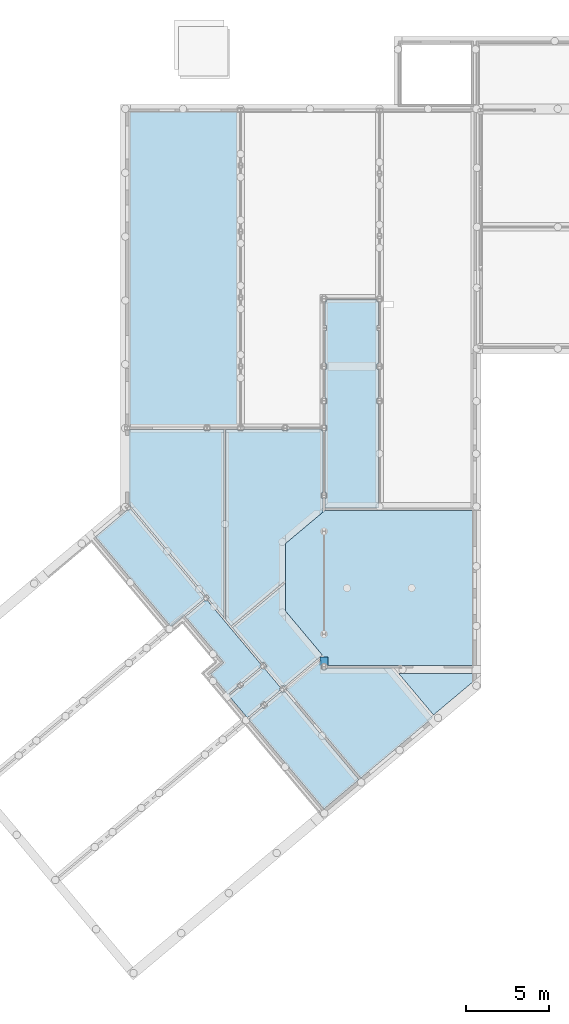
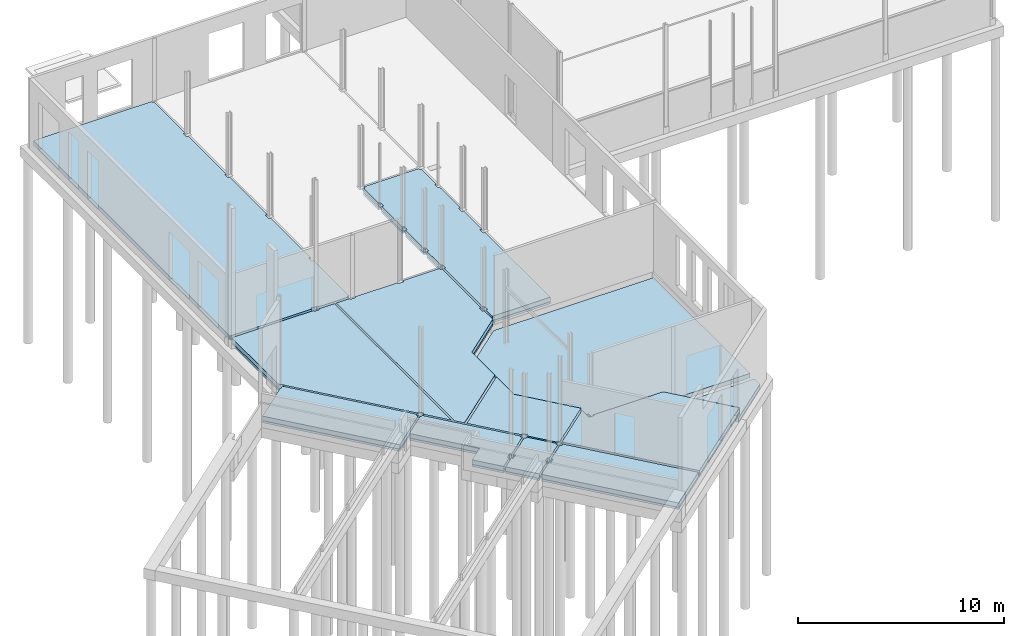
# One storey, part 14 of 18: 21 slabs, 1 beam.
"""IFC2X3 building model written with IfcOpenShell, lengths in millimetres."""

from ifc_helpers import new_model, entity, si_unit, converted_unit, derived_unit, direction, frame, origin, place, context, subcontext, project, spatial, polyline, outline, extrude, faceted_brep, material, layer, layer_set, layer_usage, type_object, element, save


model = new_model("IFC2X3")

# Units and contexts
model_context = context("Model", 3, precision=0.01, world=origin(), true_north=direction((6.12303176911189e-17, 1.0)))
body_context = subcontext(model_context, "Body", "Model", "MODEL_VIEW")
ifc_project = project(units=[si_unit("LENGTHUNIT", "METRE", prefix="MILLI"), si_unit("AREAUNIT", "SQUARE_METRE"), si_unit("VOLUMEUNIT", "CUBIC_METRE"), converted_unit("PLANEANGLEUNIT", "DEGREE", entity("IfcRatioMeasure", 0.0174532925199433), si_unit("PLANEANGLEUNIT", "RADIAN"), dimensions=[0, 0, 0, 0, 0, 0, 0]), si_unit("MASSUNIT", "GRAM", prefix="KILO"), derived_unit("MASSDENSITYUNIT", [(si_unit("MASSUNIT", "GRAM", prefix="KILO"), 1), (si_unit("LENGTHUNIT", "METRE"), -3)]), derived_unit("MOMENTOFINERTIAUNIT", [(si_unit("LENGTHUNIT", "METRE"), 4)]), si_unit("TIMEUNIT", "SECOND"), si_unit("FREQUENCYUNIT", "HERTZ"), si_unit("THERMODYNAMICTEMPERATUREUNIT", "DEGREE_CELSIUS"), derived_unit("THERMALTRANSMITTANCEUNIT", [(si_unit("MASSUNIT", "GRAM", prefix="KILO"), 1), (si_unit("THERMODYNAMICTEMPERATUREUNIT", "KELVIN"), -1), (si_unit("TIMEUNIT", "SECOND"), -3)]), derived_unit("VOLUMETRICFLOWRATEUNIT", [(si_unit("LENGTHUNIT", "METRE"), 3), (si_unit("TIMEUNIT", "SECOND"), -1)]), si_unit("ELECTRICCURRENTUNIT", "AMPERE"), si_unit("ELECTRICVOLTAGEUNIT", "VOLT"), si_unit("POWERUNIT", "WATT"), si_unit("FORCEUNIT", "NEWTON", prefix="KILO"), si_unit("ILLUMINANCEUNIT", "LUX"), si_unit("LUMINOUSFLUXUNIT", "LUMEN"), si_unit("LUMINOUSINTENSITYUNIT", "CANDELA"), derived_unit("USERDEFINED", [(si_unit("MASSUNIT", "GRAM", prefix="KILO"), -1), (si_unit("LENGTHUNIT", "METRE"), -2), (si_unit("TIMEUNIT", "SECOND"), 3), (si_unit("LUMINOUSFLUXUNIT", "LUMEN"), 1)]), derived_unit("LINEARVELOCITYUNIT", [(si_unit("LENGTHUNIT", "METRE"), 1), (si_unit("TIMEUNIT", "SECOND"), -1)]), si_unit("PRESSUREUNIT", "PASCAL"), derived_unit("USERDEFINED", [(si_unit("LENGTHUNIT", "METRE"), -2), (si_unit("MASSUNIT", "GRAM", prefix="KILO"), 1), (si_unit("TIMEUNIT", "SECOND"), -2)]), derived_unit("LINEARFORCEUNIT", [(si_unit("MASSUNIT", "GRAM", prefix="KILO"), 1), (si_unit("LENGTHUNIT", "METRE"), 1), (si_unit("TIMEUNIT", "SECOND"), -2), (si_unit("LENGTHUNIT", "METRE"), -1)]), derived_unit("PLANARFORCEUNIT", [(si_unit("MASSUNIT", "GRAM", prefix="KILO"), 1), (si_unit("LENGTHUNIT", "METRE"), 1), (si_unit("TIMEUNIT", "SECOND"), -2), (si_unit("LENGTHUNIT", "METRE"), -2)])], contexts=[model_context])

# Site, building, storey
site_placement = place(None, origin())
site = spatial("IfcSite", under=ifc_project, at=site_placement, Name="Default", CompositionType="ELEMENT")
building_placement = place(site_placement, origin())
building = spatial("IfcBuilding", under=site, at=building_placement, CompositionType="ELEMENT")
storey_placement = place(building_placement, frame((0.0, 0.0, -1085.0)))
storey = spatial("IfcBuildingStorey", under=building, at=storey_placement, Name="-00 fundatie", CompositionType="ELEMENT", Elevation=-1085.0)

# Beam
ifc_material_1 = material(Name="f2_beton ihwg")
beam_type = type_object("IfcBeamType", Name="BERSnl_28_SF_LIB_balk vierkant beton_gen_ISR:balk vierkant_gen_500X600", PredefinedType="JOIST")
beam_placement = place(storey_placement, frame((25365.4349765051, 1827.29662827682, 0.0), z_axis=(0.0, 0.0, 1.0), x_axis=(0.0, 1.0, 0.0)))
element("IfcBeam", 1, at=beam_placement, inside=storey, type_object=beam_type, material=ifc_material_1, Name="BERSnl_28_SF_LIB_balk vierkant beton_gen_ISR:balk vierkant_gen_500X600", ObjectType="BERSnl_28_SF_LIB_balk vierkant beton_gen_ISR:balk vierkant_gen_500X600", context=body_context, shape_type="Brep", body=[
    faceted_brep([(520.0, 0.0, 0.0), (520.0, 0.0, 600.0), (520.0, -240.366749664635, 600.0), (520.0, -500.0, 600.0), (520.0, -500.0, 250.0), (520.0, -240.366749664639, 250.0), (520.0, -100.0, 250.0), (520.0, -100.0, 0.0), (184.168406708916, 0.0, 600.0), (118.526921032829, 0.0, 600.0), (0.0, 0.0, 600.0), (0.0, -355.0, 600.0), (0.0, -400.0, 600.0), (0.0, -500.0, 600.0), (184.168406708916, 0.0, 0.0), (118.526921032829, 0.0, 0.0), (0.0, 0.0, 0.0), (75.0, -100.0, 0.0), (75.0, -400.0, 0.0), (0.0, -400.0, 0.0), (0.0, -500.0, 250.0), (0.0, -400.0, 250.0), (75.0, -400.0, 250.0), (75.0, -100.0, 250.0)], [[[0, 1, 2, 3, 4, 5, 6, 7]], [[3, 2, 1, 8, 9, 10, 11, 12, 13]], [[1, 0, 14, 15, 16, 10, 9, 8]], [[0, 7, 17, 18, 19, 16, 15, 14]], [[4, 3, 13, 20]], [[4, 20, 21, 22, 23, 6, 5]], [[13, 12, 11, 10, 16, 19, 21, 20]], [[22, 21, 19, 18]], [[23, 22, 18, 17]], [[23, 17, 7, 6]]]),
])

# Slabs
ifc_material_2 = material(Name="f2_beton prefab")
ifc_layer_1 = layer(ifc_material_2, 265.0)
ifc_layer_set_1 = layer_set([ifc_layer_1], Name="Floor:BERSnl_23_FL_kanaalplaatvloer 265")
ifc_layer_usage_1 = layer_usage(ifc_layer_set_1, "AXIS3", "POSITIVE", 0.0)
slab_type_1 = type_object("IfcSlabType", Name="Floor:BERSnl_23_FL_kanaalplaatvloer 265", PredefinedType="FLOOR", material=ifc_layer_set_1)
slab_1_placement = place(storey_placement, origin())
element("IfcSlab", 2, at=slab_1_placement, inside=storey, type_object=slab_type_1, material=ifc_layer_usage_1, Name="Floor:BERSnl_23_FL_kanaalplaatvloer 265", ObjectType="Floor:BERSnl_23_FL_kanaalplaatvloer 265", PredefinedType="FLOOR", context=body_context, shape_type="SweptSolid", body=[
    extrude(outline(polyline([(-7696.44925605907, -5514.44251383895), (11317.5507439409, -5514.44251383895), (11317.5507439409, 1095.55748616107), (11237.2029904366, 1095.55748616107), (11237.2029904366, 1195.55748616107), (8188.55074394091, 1195.55748616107), (8188.55074394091, 1095.55748616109), (7888.55074394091, 1095.55748616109), (7888.55074394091, 1195.55748616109), (4188.55074394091, 1195.55748616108), (4188.55074394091, 1095.55748616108), (3888.55074394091, 1095.55748616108), (3888.55074394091, 1195.55748616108), (218.550743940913, 1195.55748616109), (218.550743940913, 1095.55748616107), (-81.4492560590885, 1095.55748616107), (-81.4492560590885, 1195.55748616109), (-3956.90595886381, 1195.55748616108), (-3956.90595886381, 1095.55748616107), (-4256.90595886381, 1095.55748616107), (-4256.90595886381, 1195.55748616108), (-7696.44925605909, 1195.55748616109), (-7696.44925605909, 1095.55748616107), (-7771.44925605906, 1095.55748616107), (-7771.44925605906, -634.123660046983), (-7696.44925605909, -634.123660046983), (-7696.44925605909, -934.123660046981), (-7771.44925605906, -934.123660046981), (-7771.44925605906, -5468.44251383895), (-7696.44925605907, -5468.44251383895), (-7696.44925605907, -5514.44251383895)])), frame((19323.877490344, 24028.7458843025, 995.0), z_axis=(0.0, 0.0, -1.0), x_axis=(0.0, 1.0, 0.0)), (0.0, 0.0, 1.0), 265.0),
])
ifc_layer_usage_2 = layer_usage(ifc_layer_set_1, "AXIS3", "POSITIVE", 0.0)
slab_type_2 = type_object("IfcSlabType", Name="Floor:BERSnl_23_FL_kanaalplaatvloer 265", PredefinedType="FLOOR", material=ifc_layer_set_1)
slab_2_placement = place(storey_placement, origin())
element("IfcSlab", 3, at=slab_2_placement, inside=storey, type_object=slab_type_2, material=ifc_layer_usage_2, Name="Floor:BERSnl_23_FL_kanaalplaatvloer 265", ObjectType="Floor:BERSnl_23_FL_kanaalplaatvloer 265", PredefinedType="FLOOR", context=body_context, shape_type="SweptSolid", body=[
    extrude(outline(polyline([(-7635.93118364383, -1311.60000000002), (-7014.16569026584, -1311.60000000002), (-7014.16569026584, -1211.60000000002), (-6714.16569026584, -1211.60000000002), (-6714.16569026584, -1311.60000000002), (-2945.93118364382, -1311.6), (-2945.93118364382, -1211.60000000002), (-2645.93118364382, -1211.60000000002), (-2645.93118364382, -1311.60000000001), (-1294.65801211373, -1311.60000000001), (-1294.65801211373, -1211.60000000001), (-994.65801211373, -1211.60000000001), (-994.65801211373, -1311.60000000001), (794.068816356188, -1311.60000000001), (794.068816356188, -1211.6), (1094.06881635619, -1211.6), (1094.06881635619, -1311.60000000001), (3109.0688163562, -1311.60000000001), (3109.0688163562, -1211.60000000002), (3409.0688163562, -1211.60000000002), (3409.0688163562, -1311.60000000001), (4874.06881635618, -1311.60000000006), (4874.06881635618, -1211.60000000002), (4974.06881635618, -1211.60000000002), (4974.06881635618, 1842.39999999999), (4874.06881635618, 1842.39999999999), (4874.06881635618, 1942.39999999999), (3409.0688163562, 1942.39999999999), (3409.0688163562, 1842.40000000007), (3109.06881635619, 1842.40000000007), (3109.06881635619, 1942.39999999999), (1094.06881635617, 1942.40000000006), (1094.06881635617, 1842.39999999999), (794.068816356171, 1842.39999999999), (794.068816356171, 1942.40000000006), (-994.658012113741, 1942.4), (-994.658012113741, 1842.39999999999), (-1294.65801211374, 1842.39999999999), (-1294.65801211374, 1942.4), (-7635.93118364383, 1942.40000000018), (-7635.93118364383, -1311.60000000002)])), frame((26977.0349765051, 18978.2278118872, 995.0), z_axis=(0.0, 0.0, -1.0), x_axis=(0.0, 1.0, 0.0)), (0.0, 0.0, 1.0), 265.0),
])
ifc_material_3 = material(Name="00_Isolatie_generiek")
ifc_layer_2 = layer(ifc_material_3, 130.0)
ifc_layer_set_2 = layer_set([ifc_layer_2], Name="Floor:NLRS_23_FL_isolatie 130")
ifc_layer_usage_3 = layer_usage(ifc_layer_set_2, "AXIS3", "POSITIVE", 0.0)
slab_type_3 = type_object("IfcSlabType", Name="Floor:NLRS_23_FL_isolatie 130", PredefinedType="FLOOR", material=ifc_layer_set_2)
slab_3_placement = place(storey_placement, origin())
element("IfcSlab", 4, at=slab_3_placement, inside=storey, type_object=slab_type_3, material=ifc_layer_usage_3, Name="Floor:NLRS_23_FL_isolatie 130", ObjectType="Floor:NLRS_23_FL_isolatie 130", PredefinedType="FLOOR", context=body_context, shape_type="SweptSolid", body=[
    extrude(outline(polyline([(-7635.93118364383, -1311.60000000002), (-7014.16569026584, -1311.60000000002), (-7014.16569026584, -1211.60000000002), (-6714.16569026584, -1211.60000000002), (-6714.16569026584, -1311.60000000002), (-2945.93118364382, -1311.6), (-2945.93118364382, -1211.60000000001), (-2645.93118364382, -1211.60000000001), (-2645.93118364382, -1311.6), (-1294.65801211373, -1311.60000000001), (-1294.65801211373, -1211.60000000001), (-994.65801211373, -1211.60000000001), (-994.65801211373, -1311.60000000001), (794.068816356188, -1311.6), (794.068816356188, -1211.6), (1094.06881635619, -1211.6), (1094.06881635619, -1311.6), (3109.0688163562, -1311.60000000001), (3109.0688163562, -1211.60000000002), (3409.0688163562, -1211.60000000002), (3409.0688163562, -1311.60000000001), (4874.06881635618, -1311.60000000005), (4874.06881635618, -1211.60000000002), (4974.06881635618, -1211.60000000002), (4974.06881635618, 1842.4), (4874.06881635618, 1842.4), (4874.06881635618, 1942.39999999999), (3409.0688163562, 1942.39999999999), (3409.0688163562, 1842.40000000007), (3109.06881635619, 1842.40000000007), (3109.06881635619, 1942.39999999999), (1094.06881635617, 1942.40000000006), (1094.06881635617, 1842.39999999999), (794.068816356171, 1842.39999999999), (794.068816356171, 1942.40000000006), (-994.658012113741, 1942.4), (-994.658012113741, 1842.39999999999), (-1294.65801211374, 1842.39999999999), (-1294.65801211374, 1942.4), (-7635.93118364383, 1942.40000000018), (-7635.93118364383, -1311.60000000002)])), frame((26977.0349765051, 18978.2278118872, 730.0), z_axis=(0.0, 0.0, -1.0), x_axis=(0.0, 1.0, 0.0)), (0.0, 0.0, 1.0), 130.0),
])
ifc_layer_3 = layer(ifc_material_1, 250.0)
ifc_layer_set_3 = layer_set([ifc_layer_3], Name="Floor:BERSnl_23_FL_gewapend beton 250_gen_ISR")
ifc_layer_usage_4 = layer_usage(ifc_layer_set_3, "AXIS3", "POSITIVE", 0.0)
slab_type_4 = type_object("IfcSlabType", Name="Floor:BERSnl_23_FL_gewapend beton 250_gen_ISR", PredefinedType="FLOOR", material=ifc_layer_set_3)
slab_4_placement = place(storey_placement, origin())
element("IfcSlab", 5, at=slab_4_placement, inside=storey, type_object=slab_type_4, material=ifc_layer_usage_4, Name="Floor:BERSnl_23_FL_gewapend beton 250_gen_ISR", ObjectType="Floor:BERSnl_23_FL_gewapend beton 250_gen_ISR", PredefinedType="FLOOR", context=body_context, shape_type="SweptSolid", body=[
    extrude(outline(polyline([(-78.2421030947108, -3814.29762799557), (4023.33311651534, -3814.29762799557), (6005.86919223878, -1451.60313730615), (6005.8691922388, 7518.6944526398), (-3359.13080772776, 7518.69445263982), (-3359.13080772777, -1339.29762799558), (-3284.13080772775, -1339.29762799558), (-3284.13080772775, -1639.29762799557), (-2670.30616698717, -1639.29762799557), (-78.2421030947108, -3814.29762799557)])), frame((27104.7326045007, 5186.42743600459, 250.0), z_axis=(0.0, 0.0, -1.0), x_axis=(0.0, 1.0, 0.0)), (0.0, 0.0, 1.0), 250.0),
])
ifc_layer_usage_5 = layer_usage(ifc_layer_set_3, "AXIS3", "POSITIVE", 0.0)
slab_type_5 = type_object("IfcSlabType", Name="Floor:BERSnl_23_FL_gewapend beton 250_gen_ISR", PredefinedType="FLOOR", material=ifc_layer_set_3)
slab_5_placement = place(storey_placement, origin())
element("IfcSlab", 6, at=slab_5_placement, inside=storey, type_object=slab_type_5, material=ifc_layer_usage_5, Name="Floor:BERSnl_23_FL_gewapend beton 250_gen_ISR", ObjectType="Floor:BERSnl_23_FL_gewapend beton 250_gen_ISR", PredefinedType="FLOOR", context=body_context, shape_type="SweptSolid", body=[
    extrude(outline(polyline([(-754.062474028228, -1696.44635958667), (-230.633582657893, -1696.44635958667), (1738.75853071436, 650.583766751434), (-754.062474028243, 2742.30895242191), (-754.062474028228, -1696.44635958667)])), frame((32886.9806975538, 573.234154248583, 250.0), z_axis=(0.0, 0.0, -1.0), x_axis=(0.0, -1.0, 0.0)), (0.0, 0.0, 1.0), 250.0),
])
ifc_layer_usage_6 = layer_usage(ifc_layer_set_1, "AXIS3", "POSITIVE", 0.0)
slab_type_6 = type_object("IfcSlabType", Name="Floor:BERSnl_23_FL_kanaalplaatvloer 265", PredefinedType="FLOOR", material=ifc_layer_set_1)
slab_6_placement = place(storey_placement, origin())
element("IfcSlab", 7, at=slab_6_placement, inside=storey, type_object=slab_type_6, material=ifc_layer_usage_6, Name="Floor:BERSnl_23_FL_kanaalplaatvloer 265", ObjectType="Floor:BERSnl_23_FL_kanaalplaatvloer 265", PredefinedType="FLOOR", context=body_context, shape_type="SweptSolid", body=[
    extrude(outline(polyline([(-1162.68929126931, -1304.33278101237), (2727.79663337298, -1304.33278101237), (5258.08201208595, 1711.14390935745), (914.212974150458, 5356.08281697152), (-3649.33445453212, -82.5412261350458), (-1462.68929126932, -1917.35437614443), (-1462.68929126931, -1229.33278101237), (-1162.68929126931, -1229.33278101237), (-1162.68929126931, -1304.33278101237)])), frame((26928.1242677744, 372.963847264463, 995.0), z_axis=(0.0, 0.0, -1.0), x_axis=(1.0, 0.0, 0.0)), (0.0, 0.0, 1.0), 265.0),
])
ifc_layer_usage_7 = layer_usage(ifc_layer_set_2, "AXIS3", "POSITIVE", 0.0)
slab_type_7 = type_object("IfcSlabType", Name="Floor:NLRS_23_FL_isolatie 130", PredefinedType="FLOOR", material=ifc_layer_set_2)
slab_7_placement = place(storey_placement, origin())
element("IfcSlab", 8, at=slab_7_placement, inside=storey, type_object=slab_type_7, material=ifc_layer_usage_7, Name="Floor:NLRS_23_FL_isolatie 130", ObjectType="Floor:NLRS_23_FL_isolatie 130", PredefinedType="FLOOR", context=body_context, shape_type="SweptSolid", body=[
    extrude(outline(polyline([(729.21699880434, -2938.51114888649), (4665.64225122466, -2938.51114888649), (4665.64225122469, 2732.00715713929), (-2333.9772185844, 2732.00715713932), (-2333.9772185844, -38.545415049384), (-1906.92209888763, 319.79637838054), (-1714.08581598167, 89.9830454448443), (-1771.53914921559, 41.7739747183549), (729.21699880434, -2938.51114888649)])), frame((26936.1591128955, 347.070700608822, 730.0), z_axis=(0.0, 0.0, -1.0), x_axis=(0.642787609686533, -0.766044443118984, 0.0)), (0.0, 0.0, 1.0), 130.0),
])
ifc_layer_usage_8 = layer_usage(ifc_layer_set_1, "AXIS3", "POSITIVE", 0.0)
slab_type_8 = type_object("IfcSlabType", Name="Floor:BERSnl_23_FL_kanaalplaatvloer 265", PredefinedType="FLOOR", material=ifc_layer_set_1)
slab_8_placement = place(storey_placement, origin())
element("IfcSlab", 9, at=slab_8_placement, inside=storey, type_object=slab_type_8, material=ifc_layer_usage_8, Name="Floor:BERSnl_23_FL_kanaalplaatvloer 265", ObjectType="Floor:BERSnl_23_FL_kanaalplaatvloer 265", PredefinedType="FLOOR", context=body_context, shape_type="SweptSolid", body=[
    extrude(outline(polyline([(-1360.0, -1182.31222790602), (5640.0, -1182.31222790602), (5640.0, 1582.30724190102), (-1460.0, 1582.30724190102), (-1460.0, 466.158606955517), (-1360.0, 466.158606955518), (-1360.0, 166.158606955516), (-1460.0, 166.158606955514), (-1460.0, -1032.31222790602), (-1360.0, -1032.31222790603), (-1360.0, -1182.31222790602)])), frame((23196.113241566, -1519.26670294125, 995.0), z_axis=(0.0, 0.0, -1.0), x_axis=(0.642787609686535, -0.766044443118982, 0.0)), (0.0, 0.0, 1.0), 265.0),
])
ifc_layer_usage_9 = layer_usage(ifc_layer_set_2, "AXIS3", "POSITIVE", 0.0)
slab_type_9 = type_object("IfcSlabType", Name="Floor:NLRS_23_FL_isolatie 130", PredefinedType="FLOOR", material=ifc_layer_set_2)
slab_9_placement = place(storey_placement, origin())
element("IfcSlab", 10, at=slab_9_placement, inside=storey, type_object=slab_type_9, material=ifc_layer_usage_9, Name="Floor:NLRS_23_FL_isolatie 130", ObjectType="Floor:NLRS_23_FL_isolatie 130", PredefinedType="FLOOR", context=body_context, shape_type="SweptSolid", body=[
    extrude(outline(polyline([(-1360.0, -1182.31222790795), (5640.0, -1182.31222790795), (5640.0, 1582.30724190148), (-1460.0, 1582.3072419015), (-1460.0, 466.158606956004), (-1360.0, 466.158606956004), (-1360.0, 166.158606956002), (-1460.0, 166.158606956), (-1460.0, -1032.31222790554), (-1360.0, -1032.31222790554), (-1360.0, -1182.31222790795)])), frame((23196.1132415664, -1519.26670294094, 730.0), z_axis=(0.0, 0.0, -1.0), x_axis=(0.642787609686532, -0.766044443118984, 0.0)), (0.0, 0.0, 1.0), 130.0),
])
ifc_layer_usage_10 = layer_usage(ifc_layer_set_1, "AXIS3", "POSITIVE", 0.0)
slab_type_10 = type_object("IfcSlabType", Name="Floor:BERSnl_23_FL_kanaalplaatvloer 265", PredefinedType="FLOOR", material=ifc_layer_set_1)
slab_10_placement = place(storey_placement, origin())
element("IfcSlab", 11, at=slab_10_placement, inside=storey, type_object=slab_type_10, material=ifc_layer_usage_10, Name="Floor:BERSnl_23_FL_kanaalplaatvloer 265", ObjectType="Floor:BERSnl_23_FL_kanaalplaatvloer 265", PredefinedType="FLOOR", context=body_context, shape_type="SweptSolid", body=[
    extrude(outline(polyline([(-769.086600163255, -1168.8024436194), (768.896335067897, -1168.8024436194), (768.8963350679, -1068.80244362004), (868.896335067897, -1068.80244362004), (868.896335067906, 129.668391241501), (768.896335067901, 129.668391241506), (768.896335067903, 429.668391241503), (868.896335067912, 429.668391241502), (868.896335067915, 1545.81702618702), (-868.706069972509, 1545.81702618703), (-868.706069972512, 750.62676109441), (-769.086600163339, 750.62676109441), (-769.086600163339, 450.626761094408), (-868.706069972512, 450.626761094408), (-868.706069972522, -1068.8024436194), (-769.086600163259, -1068.8024436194), (-769.086600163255, -1168.8024436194)])), frame((21606.8956451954, 317.920378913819, 995.0), z_axis=(0.0, 0.0, -1.0), x_axis=(0.642787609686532, -0.766044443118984, 0.0)), (0.0, 0.0, 1.0), 265.0),
])
ifc_layer_usage_11 = layer_usage(ifc_layer_set_1, "AXIS3", "POSITIVE", 0.0)
slab_type_11 = type_object("IfcSlabType", Name="Floor:BERSnl_23_FL_kanaalplaatvloer 265", PredefinedType="FLOOR", material=ifc_layer_set_1)
slab_11_placement = place(storey_placement, origin())
element("IfcSlab", 12, at=slab_11_placement, inside=storey, type_object=slab_type_11, material=ifc_layer_usage_11, Name="Floor:BERSnl_23_FL_kanaalplaatvloer 265", ObjectType="Floor:BERSnl_23_FL_kanaalplaatvloer 265", PredefinedType="FLOOR", context=body_context, shape_type="SweptSolid", body=[
    extrude(outline(polyline([(-1605.92954919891, -2117.40815568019), (1848.80259372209, -2117.40815568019), (1848.8025937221, 881.58709106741), (1749.18312391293, 881.587091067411), (1749.18312391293, 981.587091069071), (211.200188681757, 981.587091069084), (211.200188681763, 881.587091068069), (-88.7998113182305, 881.587091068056), (-88.7998113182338, 981.587091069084), (-2917.42132039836, 981.587091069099), (-2917.42132039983, -3217.88041718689), (-1605.92954919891, -2117.40815568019)])), frame((22700.6778412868, 2515.38613603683, 995.0), z_axis=(0.0, 0.0, -1.0), x_axis=(0.642787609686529, -0.766044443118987, 0.0)), (0.0, 0.0, 1.0), 265.0),
])
ifc_layer_usage_12 = layer_usage(ifc_layer_set_2, "AXIS3", "POSITIVE", 0.0)
slab_type_12 = type_object("IfcSlabType", Name="Floor:NLRS_23_FL_isolatie 130", PredefinedType="FLOOR", material=ifc_layer_set_2)
slab_12_placement = place(storey_placement, origin())
element("IfcSlab", 13, at=slab_12_placement, inside=storey, type_object=slab_type_12, material=ifc_layer_usage_12, Name="Floor:NLRS_23_FL_isolatie 130", ObjectType="Floor:NLRS_23_FL_isolatie 130", PredefinedType="FLOOR", context=body_context, shape_type="SweptSolid", body=[
    extrude(outline(polyline([(-1605.92954919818, -2117.40815567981), (1848.80259372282, -2117.40815567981), (1848.8025937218, 881.587091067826), (1749.18312391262, 881.58709106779), (1749.18312391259, 981.587091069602), (211.200188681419, 981.587091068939), (211.200188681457, 881.587091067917), (-88.7998113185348, 881.587091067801), (-88.7998113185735, 981.587091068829), (-2917.4213203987, 981.58709106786), (-2917.4213203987, -3217.88041718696), (-1605.92954919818, -2117.40815567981)])), frame((22700.6778412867, 2515.38613603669, 730.0), z_axis=(0.0, 0.0, -1.0), x_axis=(0.642787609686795, -0.766044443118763, 0.0)), (0.0, 0.0, 1.0), 130.0),
])
ifc_layer_usage_13 = layer_usage(ifc_layer_set_1, "AXIS3", "POSITIVE", 0.0)
slab_type_13 = type_object("IfcSlabType", Name="Floor:BERSnl_23_FL_kanaalplaatvloer 265", PredefinedType="FLOOR", material=ifc_layer_set_1)
slab_13_placement = place(storey_placement, origin())
element("IfcSlab", 14, at=slab_13_placement, inside=storey, type_object=slab_type_13, material=ifc_layer_usage_13, Name="Floor:BERSnl_23_FL_kanaalplaatvloer 265", ObjectType="Floor:BERSnl_23_FL_kanaalplaatvloer 265", PredefinedType="FLOOR", context=body_context, shape_type="SweptSolid", body=[
    extrude(outline(polyline([(-8611.78380933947, -3443.41134509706), (2894.58001749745, -3443.41134509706), (2894.58001749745, -2693.79857525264), (2819.58001749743, -2693.79857525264), (2819.58001749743, -2393.79857525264), (2894.58001749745, -2393.79857525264), (2894.58001749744, 2.20142474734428), (2819.58001749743, 2.2014247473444), (2819.58001749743, 302.201424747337), (2919.58001749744, 302.201424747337), (2919.58001749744, 2352.20142474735), (2819.58001749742, 2352.20142474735), (2819.58001749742, 2452.20142474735), (-948.654489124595, 2452.20142474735), (-948.654489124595, 2352.20142474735), (-1248.65448912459, 2352.20142474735), (-1248.65448912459, 2452.20142474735), (-2094.00439729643, 2452.20142474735), (-4002.95605822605, 177.201424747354), (-6232.96096449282, 177.201424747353), (-8998.637024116, -3118.80295525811), (-8611.78380933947, -3443.41134509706)])), frame((23113.2335517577, 13212.716610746, 995.0), z_axis=(0.0, 0.0, -1.0), x_axis=(0.0, 1.0, 0.0)), (0.0, 0.0, 1.0), 265.0),
])
ifc_layer_usage_14 = layer_usage(ifc_layer_set_2, "AXIS3", "POSITIVE", 0.0)
slab_type_14 = type_object("IfcSlabType", Name="Floor:NLRS_23_FL_isolatie 130", PredefinedType="FLOOR", material=ifc_layer_set_2)
slab_14_placement = place(storey_placement, origin())
element("IfcSlab", 15, at=slab_14_placement, inside=storey, type_object=slab_type_14, material=ifc_layer_usage_14, Name="Floor:NLRS_23_FL_isolatie 130", ObjectType="Floor:NLRS_23_FL_isolatie 130", PredefinedType="FLOOR", context=body_context, shape_type="SweptSolid", body=[
    extrude(outline(polyline([(-8612.33597113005, -3443.39746400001), (2894.61985559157, -3443.39746400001), (2894.61985559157, -2693.78469415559), (2819.61985559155, -2693.78469415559), (2819.61985559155, -2393.78469415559), (2894.61985559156, -2393.78469415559), (2894.61985559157, 2.21530584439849), (2819.61985559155, 2.2153058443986), (2819.61985559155, 302.2153058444), (2919.61985559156, 302.2153058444), (2919.61985559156, 2352.21530584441), (2819.61985559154, 2352.21530584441), (2819.61985559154, 2452.2153058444), (-948.614651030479, 2452.2153058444), (-948.614651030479, 2352.2153058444), (-1248.61465103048, 2352.2153058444), (-1248.61465103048, 2452.21530584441), (-2093.96455920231, 2452.2153058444), (-4002.91622013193, 177.215305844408), (-6232.9211263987, 177.215305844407), (-8998.84178611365, -3119.08057719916), (-8612.33597113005, -3443.39746400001)])), frame((23113.2196706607, 13212.6767726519, 730.0), z_axis=(0.0, 0.0, -1.0), x_axis=(0.0, 1.0, 0.0)), (0.0, 0.0, 1.0), 130.0),
])
ifc_layer_usage_15 = layer_usage(ifc_layer_set_1, "AXIS3", "POSITIVE", 0.0)
slab_type_15 = type_object("IfcSlabType", Name="Floor:BERSnl_23_FL_kanaalplaatvloer 265", PredefinedType="FLOOR", material=ifc_layer_set_1)
slab_15_placement = place(storey_placement, origin())
element("IfcSlab", 16, at=slab_15_placement, inside=storey, type_object=slab_type_15, material=ifc_layer_usage_15, Name="Floor:BERSnl_23_FL_kanaalplaatvloer 265", ObjectType="Floor:BERSnl_23_FL_kanaalplaatvloer 265", PredefinedType="FLOOR", context=body_context, shape_type="SweptSolid", body=[
    extrude(outline(polyline([(-3449.06411275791, -1153.7773237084), (1657.95295201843, -1153.7773237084), (1657.95295201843, -1059.95009258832), (1757.95295201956, -1059.95009258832), (1757.95295201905, 459.47911212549), (1657.95295201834, 459.47911212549), (1657.95295201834, 759.479112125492), (1757.95295201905, 759.479112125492), (1757.95295201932, 1554.66937721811), (121.316417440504, 1554.66937721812), (121.316417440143, 500.049907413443), (-3504.06411275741, 500.049907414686), (-3504.06411275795, -1059.95009258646), (-3449.06411275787, -1059.95009258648), (-3449.06411275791, -1153.7773237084)])), frame((19860.7697042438, 2412.64405558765, 995.0), z_axis=(0.0, 0.0, -1.0), x_axis=(0.642787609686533, -0.766044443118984, 0.0)), (0.0, 0.0, 1.0), 265.0),
])
ifc_layer_usage_16 = layer_usage(ifc_layer_set_2, "AXIS3", "POSITIVE", 0.0)
slab_type_16 = type_object("IfcSlabType", Name="Floor:NLRS_23_FL_isolatie 130", PredefinedType="FLOOR", material=ifc_layer_set_2)
slab_16_placement = place(storey_placement, origin())
element("IfcSlab", 17, at=slab_16_placement, inside=storey, type_object=slab_type_16, material=ifc_layer_usage_16, Name="Floor:NLRS_23_FL_isolatie 130", ObjectType="Floor:NLRS_23_FL_isolatie 130", PredefinedType="FLOOR", context=body_context, shape_type="SweptSolid", body=[
    extrude(outline(polyline([(-3410.48023302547, -1153.7773237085), (1651.51976698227, -1153.7773237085), (1651.51976698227, -1059.95009258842), (1751.51976698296, -1059.95009258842), (1751.51976698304, 459.479112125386), (1651.51976698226, 459.479112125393), (1651.51976698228, 759.479112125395), (1751.51976698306, 759.47911212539), (1751.5197669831, 1554.66937721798), (114.883232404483, 1554.66937721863), (114.883232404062, 500.049907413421), (-3510.48206730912, 500.04990741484), (-3510.48206730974, -1059.95009258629), (-3410.48023302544, -1059.95009258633), (-3410.48023302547, -1153.7773237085)])), frame((19864.9048758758, 2407.71594993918, 730.0), z_axis=(0.0, 0.0, -1.0), x_axis=(0.642787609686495, -0.766044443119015, 0.0)), (0.0, 0.0, 1.0), 130.0),
])
ifc_layer_usage_17 = layer_usage(ifc_layer_set_1, "AXIS3", "POSITIVE", 0.0)
slab_type_17 = type_object("IfcSlabType", Name="Floor:BERSnl_23_FL_kanaalplaatvloer 265", PredefinedType="FLOOR", material=ifc_layer_set_1)
slab_17_placement = place(storey_placement, origin())
element("IfcSlab", 18, at=slab_17_placement, inside=storey, type_object=slab_type_17, material=ifc_layer_usage_17, Name="Floor:BERSnl_23_FL_kanaalplaatvloer 265", ObjectType="Floor:BERSnl_23_FL_kanaalplaatvloer 265", PredefinedType="FLOOR", context=body_context, shape_type="SweptSolid", body=[
    extrude(outline(polyline([(-3492.10745280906, -754.912889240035), (3462.09721567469, -754.912889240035), (3462.09721567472, -656.295215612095), (3563.09120094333, -654.532359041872), (3563.09120094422, 1960.08711075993), (-3533.08096380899, 1960.08711076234), (-3533.08096380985, -549.607979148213), (-3492.10745280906, -549.912889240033), (-3492.10745280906, -754.912889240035)])), frame((15565.0289642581, 8162.8265432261, 995.0), z_axis=(0.0, 0.0, -1.0), x_axis=(0.642787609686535, -0.766044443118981, 0.0)), (0.0, 0.0, 1.0), 265.0),
])
ifc_layer_usage_18 = layer_usage(ifc_layer_set_2, "AXIS3", "POSITIVE", 0.0)
slab_type_18 = type_object("IfcSlabType", Name="Floor:NLRS_23_FL_isolatie 130", PredefinedType="FLOOR", material=ifc_layer_set_2)
slab_18_placement = place(storey_placement, origin())
element("IfcSlab", 19, at=slab_18_placement, inside=storey, type_object=slab_type_18, material=ifc_layer_usage_18, Name="Floor:NLRS_23_FL_isolatie 130", ObjectType="Floor:NLRS_23_FL_isolatie 130", PredefinedType="FLOOR", context=body_context, shape_type="SweptSolid", body=[
    extrude(outline(polyline([(-3549.43184736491, 549.359392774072), (-3530.75844452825, -1959.95367068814), (3565.49635450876, -1959.95367069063), (3565.49635450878, 655.046329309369), (3464.41973495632, 656.810628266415), (3464.41973495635, 754.665799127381), (-3489.82094351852, 754.665799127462), (-3489.82094351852, 549.359392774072), (-3549.43184736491, 549.359392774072)])), frame((15563.4338566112, 8164.5199225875, 730.0), z_axis=(0.0, 0.0, 1.0), x_axis=(0.642787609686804, -0.766044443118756, 0.0)), (0.0, 0.0, -1.0), 130.0),
])
ifc_layer_usage_19 = layer_usage(ifc_layer_set_1, "AXIS3", "POSITIVE", 0.0)
slab_type_19 = type_object("IfcSlabType", Name="Floor:BERSnl_23_FL_kanaalplaatvloer 265", PredefinedType="FLOOR", material=ifc_layer_set_1)
slab_19_placement = place(storey_placement, origin())
element("IfcSlab", 20, at=slab_19_placement, inside=storey, type_object=slab_type_19, material=ifc_layer_usage_19, Name="Floor:BERSnl_23_FL_kanaalplaatvloer 265", ObjectType="Floor:BERSnl_23_FL_kanaalplaatvloer 265", PredefinedType="FLOOR", context=body_context, shape_type="SweptSolid", body=[
    extrude(outline(polyline([(-476.306915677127, -3538.54336778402), (3972.13791722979, -3538.54336778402), (3972.13791722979, -3494.06259248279), (4047.1379172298, -3494.06259248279), (4047.1379172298, 1040.25626130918), (3972.13791722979, 1040.25626130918), (3972.13791722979, 1340.25626130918), (4047.1379172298, 1340.25626130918), (4047.1379172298, 2219.93740751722), (-7338.99706752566, 2219.93740751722), (-6195.00874936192, 1260.01723167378), (-6131.21918857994, 1336.03866990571), (-5935.89092795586, 1172.13879845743), (-5999.68048873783, 1096.11736022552), (-476.306915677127, -3538.54336778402)])), frame((17349.4975689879, 12060.1587110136, 995.0), z_axis=(0.0, 0.0, -1.0), x_axis=(0.0, 1.0, 0.0)), (0.0, 0.0, 1.0), 265.0),
])
ifc_layer_usage_20 = layer_usage(ifc_layer_set_2, "AXIS3", "POSITIVE", 0.0)
slab_type_20 = type_object("IfcSlabType", Name="Floor:NLRS_23_FL_isolatie 130", PredefinedType="FLOOR", material=ifc_layer_set_2)
slab_20_placement = place(storey_placement, origin())
element("IfcSlab", 21, at=slab_20_placement, inside=storey, type_object=slab_type_20, material=ifc_layer_usage_20, Name="Floor:NLRS_23_FL_isolatie 130", ObjectType="Floor:NLRS_23_FL_isolatie 130", PredefinedType="FLOOR", context=body_context, shape_type="SweptSolid", body=[
    extrude(outline(polyline([(-476.308783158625, -3538.54180078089), (3972.13604974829, -3538.54180078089), (3972.13604974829, -3494.06102547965), (4047.1360497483, -3494.06102547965), (4047.1360497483, 1040.25782831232), (3972.13604974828, 1040.25782831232), (3972.13604974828, 1340.25782831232), (4047.13604974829, 1340.25782831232), (4047.13604974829, 2219.93897452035), (-7338.99893500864, 2219.93897452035), (-6194.9975444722, 1260.00782965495), (-6131.20798369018, 1336.02926788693), (-5935.89279543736, 1172.14036546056), (-5999.68235621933, 1096.11892722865), (-476.308783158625, -3538.54180078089)])), frame((17349.4960019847, 12060.1605784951, 730.0), z_axis=(0.0, 0.0, -1.0), x_axis=(0.0, 1.0, 0.0)), (0.0, 0.0, 1.0), 130.0),
])
ifc_layer_usage_21 = layer_usage(ifc_layer_set_2, "AXIS3", "POSITIVE", 0.0)
slab_type_21 = type_object("IfcSlabType", Name="Floor:NLRS_23_FL_isolatie 130", PredefinedType="FLOOR", material=ifc_layer_set_2)
slab_21_placement = place(storey_placement, origin())
element("IfcSlab", 22, at=slab_21_placement, inside=storey, type_object=slab_type_21, material=ifc_layer_usage_21, Name="Floor:NLRS_23_FL_isolatie 130", ObjectType="Floor:NLRS_23_FL_isolatie 130", PredefinedType="FLOOR", context=body_context, shape_type="SweptSolid", body=[
    extrude(outline(polyline([(-768.991467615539, -1168.8024436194), (768.991467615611, -1168.8024436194), (768.99146761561, -1068.80244362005), (868.991467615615, -1068.80244362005), (868.991467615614, 129.6683912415), (768.99146761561, 129.6683912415), (768.991467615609, 429.668391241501), (868.991467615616, 429.668391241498), (868.991467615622, 1545.81702618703), (-868.991467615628, 1545.81702618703), (-868.991467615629, 750.626761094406), (-768.991467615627, 750.626761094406), (-768.991467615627, 450.626761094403), (-868.991467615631, 450.626761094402), (-868.991467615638, -1068.80244361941), (-768.991467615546, -1068.80244361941), (-768.991467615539, -1168.8024436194)])), frame((21606.8344951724, 317.993254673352, 730.0), z_axis=(0.0, 0.0, -1.0), x_axis=(0.642787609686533, -0.766044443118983, 0.0)), (0.0, 0.0, 1.0), 130.0),
])

save(model, "model.ifc")
